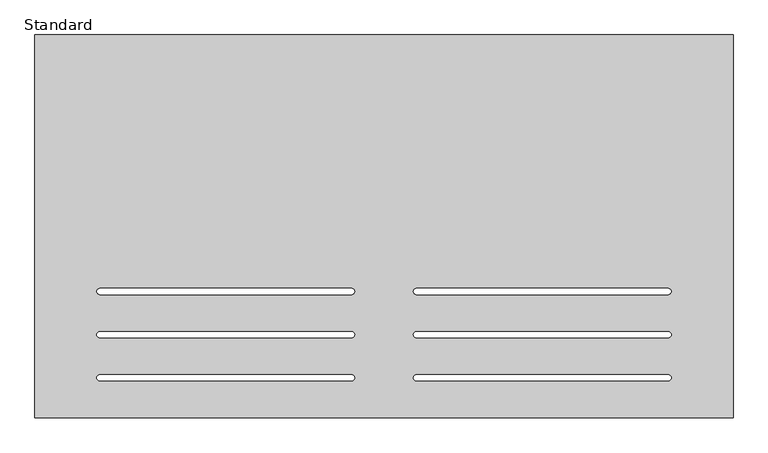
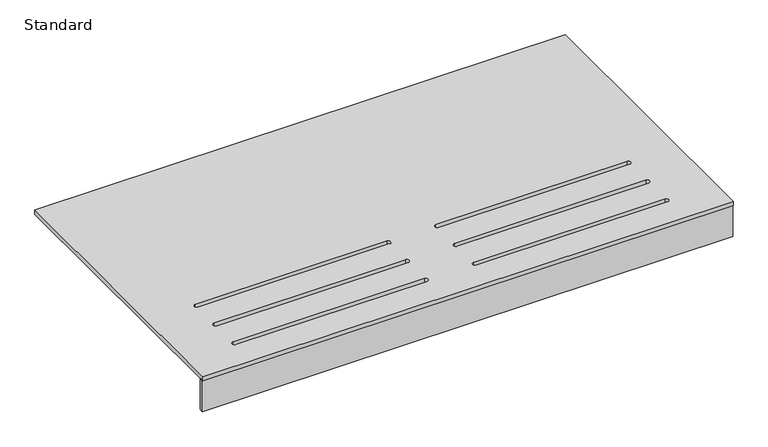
"""IFC4 building model written with IfcOpenShell, lengths in millimetres: furniture geometry, X_Bench-Wall-Duracube-Locker : Standard."""

from ifc_helpers import new_model, si_unit, point, frame, frame_2d, origin, place, context, project, spatial, polyline, circle_curve, trimmed, segment, composite_curve, outline, extrude, source, transform, mapped, element, save


def standard_98e0e482(model_context):
    return source(origin(), model_context, "Body", "SweptSolid", [
        extrude(outline(polyline([(851.2003264, -777.5), (851.2003264, -790.5), (-761.7996736, -790.5), (-761.7996736, -777.5), (851.2003264, -777.5)])), frame((0.0, 0.0, 357.0), z_axis=(0.0, 0.0, 1.0), x_axis=(1.0, 0.0, 0.0)), (0.0, 0.0, 1.0), 100.0),
        extrude(outline(polyline([(851.2003264, -792.5), (-761.7996736, -792.5), (-761.7996736, 92.5), (851.2003264, 92.5), (851.2003264, -792.5)]), holes=[composite_curve([segment(polyline([(-30.2996736, -493.25), (-611.7996736, -493.25)]), True, "CONTINUOUS"), segment(trimmed(circle_curve(frame_2d((-611.7996736, -500.25)), 7.0), [point((-611.7996736, -493.25))], [point((-611.7996736, -507.25))], True, "CARTESIAN"), True, "CONTINUOUS"), segment(polyline([(-611.7996736, -507.25), (-30.2996736, -507.25)]), True, "CONTINUOUS"), segment(trimmed(circle_curve(frame_2d((-30.2996736, -500.25)), 7.0), [point((-30.2996736, -507.25))], [point((-30.2996736, -493.25))], True, "CARTESIAN"), True, "CONTINUOUS")], self_intersect=False), composite_curve([segment(polyline([(-30.2996736, -593.0), (-611.7996736, -593.0)]), True, "CONTINUOUS"), segment(trimmed(circle_curve(frame_2d((-611.7996736, -600.0)), 7.0), [point((-611.7996736, -593.0))], [point((-611.7996736, -607.0))], True, "CARTESIAN"), True, "CONTINUOUS"), segment(polyline([(-611.7996736, -607.0), (-30.2996736, -607.0)]), True, "CONTINUOUS"), segment(trimmed(circle_curve(frame_2d((-30.2996736, -600.0)), 7.0), [point((-30.2996736, -607.0))], [point((-30.2996736, -593.0))], True, "CARTESIAN"), True, "CONTINUOUS")], self_intersect=False), composite_curve([segment(polyline([(-30.2996736, -692.75), (-611.7996736, -692.75)]), True, "CONTINUOUS"), segment(trimmed(circle_curve(frame_2d((-611.7996736, -699.75)), 7.0), [point((-611.7996736, -692.75))], [point((-611.7996736, -706.75))], True, "CARTESIAN"), True, "CONTINUOUS"), segment(polyline([(-611.7996736, -706.75), (-30.2996736, -706.75)]), True, "CONTINUOUS"), segment(trimmed(circle_curve(frame_2d((-30.2996736, -699.75)), 7.0), [point((-30.2996736, -706.75))], [point((-30.2996736, -692.75))], True, "CARTESIAN"), True, "CONTINUOUS")], self_intersect=False), composite_curve([segment(polyline([(701.2003264, -493.25), (119.7003264, -493.25)]), True, "CONTINUOUS"), segment(trimmed(circle_curve(frame_2d((119.7003264, -500.25)), 7.0), [point((119.7003264, -493.25))], [point((119.7003264, -507.25))], True, "CARTESIAN"), True, "CONTINUOUS"), segment(polyline([(119.7003264, -507.25), (701.2003264, -507.25)]), True, "CONTINUOUS"), segment(trimmed(circle_curve(frame_2d((701.2003264, -500.25)), 7.0), [point((701.2003264, -507.25))], [point((701.2003264, -493.25))], True, "CARTESIAN"), True, "CONTINUOUS")], self_intersect=False), composite_curve([segment(polyline([(701.2003264, -593.0), (119.7003264, -593.0)]), True, "CONTINUOUS"), segment(trimmed(circle_curve(frame_2d((119.7003264, -600.0)), 7.0), [point((119.7003264, -593.0))], [point((119.7003264, -607.0))], True, "CARTESIAN"), True, "CONTINUOUS"), segment(polyline([(119.7003264, -607.0), (701.2003264, -607.0)]), True, "CONTINUOUS"), segment(trimmed(circle_curve(frame_2d((701.2003264, -600.0)), 7.0), [point((701.2003264, -607.0))], [point((701.2003264, -593.0))], True, "CARTESIAN"), True, "CONTINUOUS")], self_intersect=False), composite_curve([segment(polyline([(701.2003264, -692.75), (119.7003264, -692.75)]), True, "CONTINUOUS"), segment(trimmed(circle_curve(frame_2d((119.7003264, -699.75)), 7.0), [point((119.7003264, -692.75))], [point((119.7003264, -706.75))], True, "CARTESIAN"), True, "CONTINUOUS"), segment(polyline([(119.7003264, -706.75), (701.2003264, -706.75)]), True, "CONTINUOUS"), segment(trimmed(circle_curve(frame_2d((701.2003264, -699.75)), 7.0), [point((701.2003264, -706.75))], [point((701.2003264, -692.75))], True, "CARTESIAN"), True, "CONTINUOUS")], self_intersect=False)]), frame((0.0, 0.0, 457.0), z_axis=(0.0, 0.0, 1.0), x_axis=(1.0, 0.0, 0.0)), (0.0, 0.0, 1.0), 13.0),
    ])


if __name__ == "__main__":
    model = new_model("IFC4")
    model_context = context("Model", 3, world=origin())
    ifc_project = project(units=[si_unit("LENGTHUNIT", "METRE", prefix="MILLI")], contexts=[model_context])
    site = spatial("IfcSite", under=ifc_project)
    building = spatial("IfcBuilding", under=site)
    placement = place(None, origin())
    standard_shape = standard_98e0e482(model_context)
    element("IfcFurniture", 1, ObjectType="X_Bench-Wall-Duracube-Locker : Standard", at=placement, inside=building, context=model_context, shape_type="MappedRepresentation", body=[
        mapped(standard_shape, transform((0.0, 0.0, 0.0), x_axis=(1.0, 0.0, 0.0), y_axis=(0.0, 1.0, 0.0), z_axis=(0.0, 0.0, 1.0))),
    ])
    save(model, "model.ifc")
